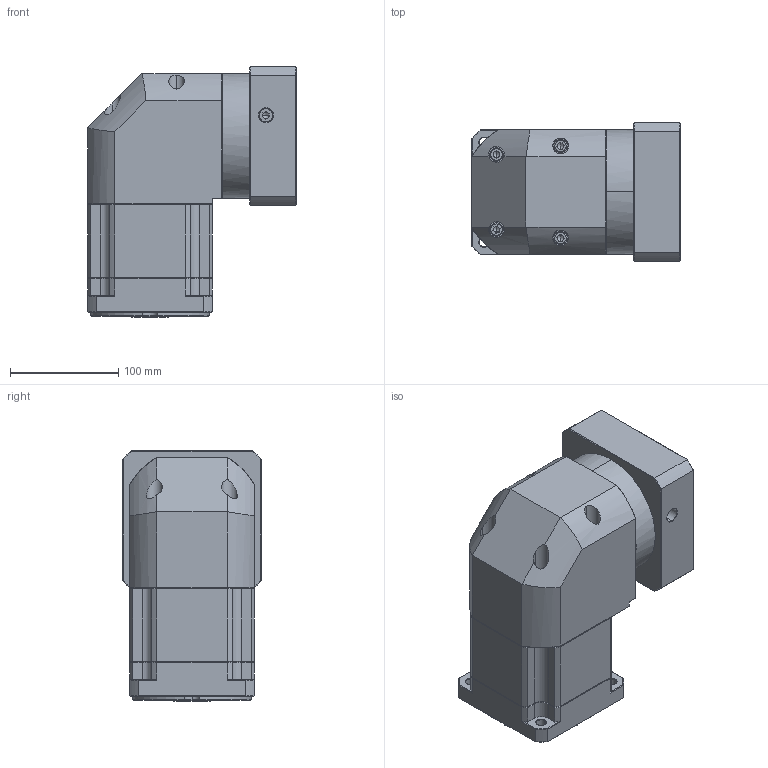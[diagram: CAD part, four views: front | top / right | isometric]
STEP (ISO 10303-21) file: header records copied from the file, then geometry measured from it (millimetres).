
FILE_DESCRIPTION (( 'STEP AP214' ), '1' );
FILE_NAME ('ZBR115A-K25-L2-P2-19-110-145-M8.step', '2023-08-26T12:43:28', ( '' ), ( '' ), 'SwSTEP 2.0', 'SolidWorks 2016', '' );
FILE_SCHEMA (( 'AUTOMOTIVE_DESIGN' ));
Length unit declared in the file: millimetre
Products named in the file (1): ZBR115A-K25-L2-P2-19-110-145-M8
Bounding box: 192.4 x 128 x 231.5 mm (x, y, z)
Volume: 3328411.1 mm3; surface area: 264030.9 mm2
Topology: 6 solids, 6 shells, 2324 faces, 6081 edges, 3861 vertices
Faces by surface type: plane 1132, bspline 416, cylinder 406, cone 362, torus 8
Entity records: 122610 total; most frequent: CARTESIAN_POINT 43290, ORIENTED_EDGE 12106, DIRECTION 9579, EDGE_CURVE 6053, VECTOR 3937, LINE 3937, VERTEX_POINT 3861, AXIS2_PLACEMENT_3D 2821
